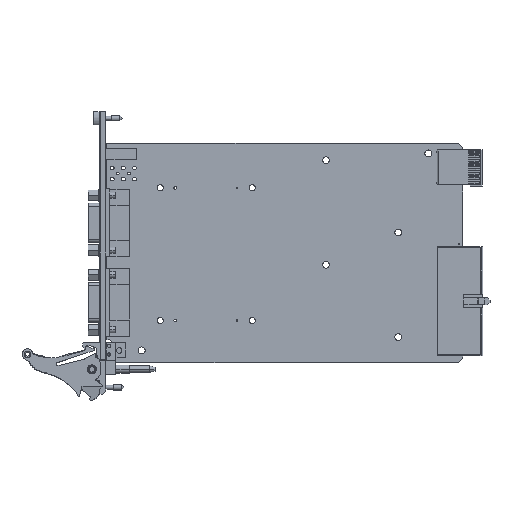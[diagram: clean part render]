
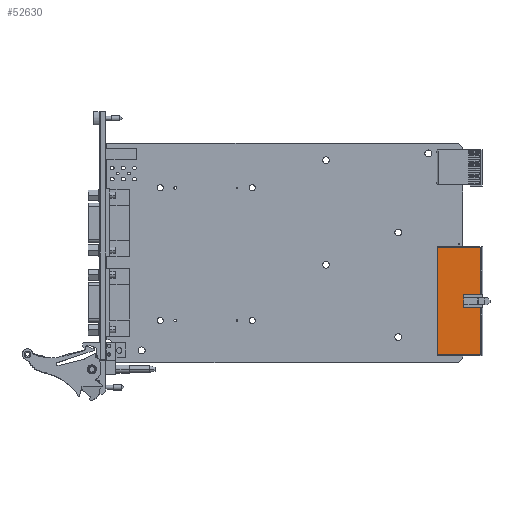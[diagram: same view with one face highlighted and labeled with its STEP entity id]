
A CAD part, top view. The second image highlights one B-rep face of the part: STEP entity #52630.
In plain terms, the highlighted planar face has unit normal (0, 0, 1).
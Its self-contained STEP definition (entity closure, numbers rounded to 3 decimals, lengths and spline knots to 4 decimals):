
#14573=DIRECTION('',(1.,0.,0.));
#14574=VECTOR('',#14573,0.7776);
#14575=CARTESIAN_POINT('',(5.8453,-3.7997,
0.3573));
#14576=LINE('',#14575,#14574);
#14585=DIRECTION('',(1.,0.,0.));
#14586=VECTOR('',#14585,0.7776);
#14587=CARTESIAN_POINT('',(5.8453,-1.8706,
0.3573));
#14588=LINE('',#14587,#14586);
#14909=DIRECTION('',(0.,1.,0.));
#14910=VECTOR('',#14909,0.8446);
#14911=CARTESIAN_POINT('',(6.6229,-3.7997,
0.3573));
#14912=LINE('',#14911,#14910);
#14913=DIRECTION('',(-1.,0.,0.));
#14914=VECTOR('',#14913,0.3031);
#14915=CARTESIAN_POINT('',(6.6229,-2.7151,
0.3573));
#14916=LINE('',#14915,#14914);
#14917=DIRECTION('',(0.,-1.,0.));
#14918=VECTOR('',#14917,0.06);
#14919=CARTESIAN_POINT('',(6.3197,-2.7151,
0.3573));
#14920=LINE('',#14919,#14918);
#14921=DIRECTION('',(0.,-1.,0.));
#14922=VECTOR('',#14921,0.06);
#14923=CARTESIAN_POINT('',(6.3197,-2.8951,
0.3573));
#14924=LINE('',#14923,#14922);
#14925=DIRECTION('',(-1.,0.,0.));
#14926=VECTOR('',#14925,0.3031);
#14927=CARTESIAN_POINT('',(6.6229,-2.9551,
0.3573));
#14928=LINE('',#14927,#14926);
#14929=DIRECTION('',(0.,1.,0.));
#14930=VECTOR('',#14929,1.9291);
#14931=CARTESIAN_POINT('',(5.8453,-3.7997,
0.3573));
#14932=LINE('',#14931,#14930);
#14977=DIRECTION('',(0.,1.,0.));
#14978=VECTOR('',#14977,0.12);
#14979=CARTESIAN_POINT('',(6.3197,-2.8951,
0.3573));
#14980=LINE('',#14979,#14978);
#15001=DIRECTION('',(0.,1.,0.));
#15002=VECTOR('',#15001,0.8446);
#15003=CARTESIAN_POINT('',(6.6229,-2.7151,
0.3573));
#15004=LINE('',#15003,#15002);
#24945=CARTESIAN_POINT('',(5.8453,-3.7997,
0.3573));
#24946=CARTESIAN_POINT('',(6.6229,-3.7997,
0.3573));
#24947=VERTEX_POINT('',#24945);
#24948=VERTEX_POINT('',#24946);
#24949=CARTESIAN_POINT('',(5.8453,-1.8706,
0.3573));
#24950=CARTESIAN_POINT('',(6.6229,-1.8706,
0.3573));
#24951=VERTEX_POINT('',#24949);
#24952=VERTEX_POINT('',#24950);
#24961=CARTESIAN_POINT('',(6.6229,-2.7151,
0.3573));
#24962=CARTESIAN_POINT('',(6.3197,-2.7151,
0.3573));
#24963=VERTEX_POINT('',#24961);
#24964=VERTEX_POINT('',#24962);
#24965=CARTESIAN_POINT('',(6.3197,-2.7751,
0.3573));
#24966=VERTEX_POINT('',#24965);
#24967=CARTESIAN_POINT('',(6.6229,-2.9551,
0.3573));
#24968=CARTESIAN_POINT('',(6.3197,-2.9551,
0.3573));
#24969=VERTEX_POINT('',#24967);
#24970=VERTEX_POINT('',#24968);
#24971=CARTESIAN_POINT('',(6.3197,-2.8951,
0.3573));
#24972=VERTEX_POINT('',#24971);
#52609=CARTESIAN_POINT('',(5.8453,-3.7997,
0.3573));
#52610=DIRECTION('',(0.,0.,1.));
#52611=DIRECTION('',(1.,0.,0.));
#52612=AXIS2_PLACEMENT_3D('',#52609,#52610,#52611);
#52613=PLANE('',#52612);
#52615=ORIENTED_EDGE('',*,*,#52614,.T.);
#52617=ORIENTED_EDGE('',*,*,#52616,.T.);
#52619=ORIENTED_EDGE('',*,*,#52618,.F.);
#52620=ORIENTED_EDGE('',*,*,#52548,.T.);
#52621=ORIENTED_EDGE('',*,*,#52565,.F.);
#52622=ORIENTED_EDGE('',*,*,#52604,.F.);
#52623=ORIENTED_EDGE('',*,*,#52101,.F.);
#52624=ORIENTED_EDGE('',*,*,#52119,.T.);
#52625=ORIENTED_EDGE('',*,*,#52137,.T.);
#52627=ORIENTED_EDGE('',*,*,#52626,.F.);
#52628=EDGE_LOOP('',(#52615,#52617,#52619,#52620,#52621,#52622,#52623,#52624,
#52625,#52627));
#52629=FACE_OUTER_BOUND('',#52628,.F.);
#52630=ADVANCED_FACE('',(#52629),#52613,.T.);
#52101=EDGE_CURVE('',#24947,#24948,#14576,.T.);
#52119=EDGE_CURVE('',#24947,#24951,#14932,.T.);
#52137=EDGE_CURVE('',#24951,#24952,#14588,.T.);
#52548=EDGE_CURVE('',#24972,#24970,#14924,.T.);
#52565=EDGE_CURVE('',#24969,#24970,#14928,.T.);
#52604=EDGE_CURVE('',#24948,#24969,#14912,.T.);
#52614=EDGE_CURVE('',#24963,#24964,#14916,.T.);
#52616=EDGE_CURVE('',#24964,#24966,#14920,.T.);
#52618=EDGE_CURVE('',#24972,#24966,#14980,.T.);
#52626=EDGE_CURVE('',#24963,#24952,#15004,.T.);
